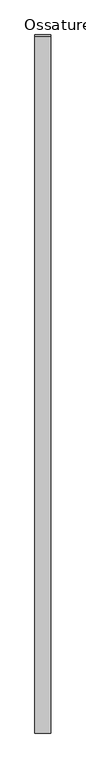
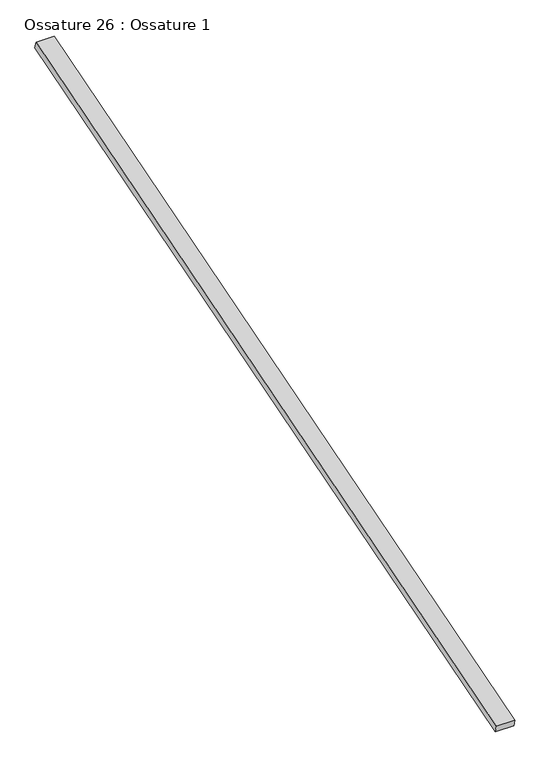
"""IFC4 building model written with IfcOpenShell, lengths in millimetres: beam geometry, Ossature 26 : Ossature 1."""

from ifc_helpers import new_model, si_unit, frame, origin, place, context, project, spatial, polyline, outline, extrude, source, transform, mapped, element, save


def ossature_26_ossature_1_2c9cc7ac(model_context):
    return source(origin(), model_context, "Body", "SweptSolid", [
        extrude(outline(polyline([(0.0, 0.0), (0.0, -4543.0299679), (-100.0, -4543.0299679), (-100.0, 0.0), (0.0, 0.0)])), frame((6498.4466393, -833.3913565, 8153.6336115), z_axis=(0.0, -0.28734788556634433, 0.9578262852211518), x_axis=(-1.0, 0.0, 0.0)), (0.0, 0.0, 1.0), 40.0),
    ])


if __name__ == "__main__":
    model = new_model("IFC4")
    model_context = context("Model", 3, world=origin())
    ifc_project = project(units=[si_unit("LENGTHUNIT", "METRE", prefix="MILLI")], contexts=[model_context])
    site = spatial("IfcSite", under=ifc_project)
    building = spatial("IfcBuilding", under=site)
    placement = place(None, origin())
    ossature_26_ossature_1_shape = ossature_26_ossature_1_2c9cc7ac(model_context)
    element("IfcBeam", 1, ObjectType="Ossature 26 : Ossature 1", at=placement, inside=building, context=model_context, shape_type="MappedRepresentation", body=[
        mapped(ossature_26_ossature_1_shape, transform((0.0, 0.0, 0.0), x_axis=(1.0, 0.0, 0.0), y_axis=(0.0, 1.0, 0.0), z_axis=(0.0, 0.0, 1.0))),
    ])
    save(model, "model.ifc")
